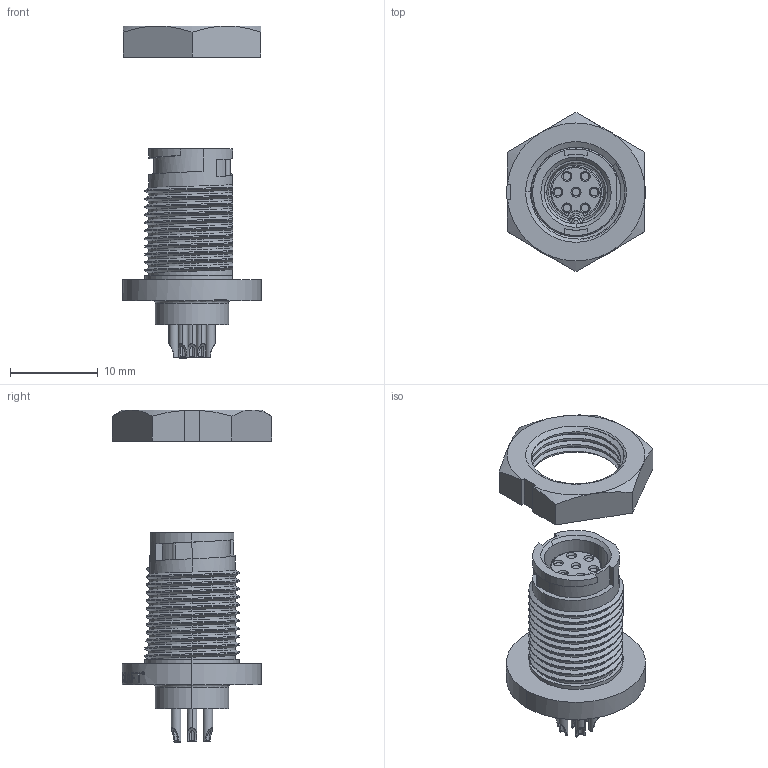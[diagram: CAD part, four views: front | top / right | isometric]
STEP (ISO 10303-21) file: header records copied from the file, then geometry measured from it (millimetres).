
FILE_DESCRIPTION (( 'STEP AP214' ), '1' );
FILE_NAME ('EN2P7F26.STEP', '2014-07-03T14:37:16', ( '' ), ( '' ), 'SwSTEP 2.0', 'SolidWorks 2014', '' );
FILE_SCHEMA (( 'AUTOMOTIVE_DESIGN' ));
Length unit declared in the file: inch
Products named in the file (1): EN2P7F26
Bounding box: 15.88 x 18.18 x 37.9 mm (x, y, z)
Volume: 2054.2 mm3; surface area: 2347.4 mm2
Topology: 2 solids, 2 shells, 571 faces, 1578 edges, 1021 vertices
Faces by surface type: cylinder 213, plane 159, bspline 143, cone 56
Entity records: 44571 total; most frequent: CARTESIAN_POINT 24085, ORIENTED_EDGE 3104, DIRECTION 2217, EDGE_CURVE 1552, VERTEX_POINT 1021, AXIS2_PLACEMENT_3D 792, VECTOR 633, LINE 633
